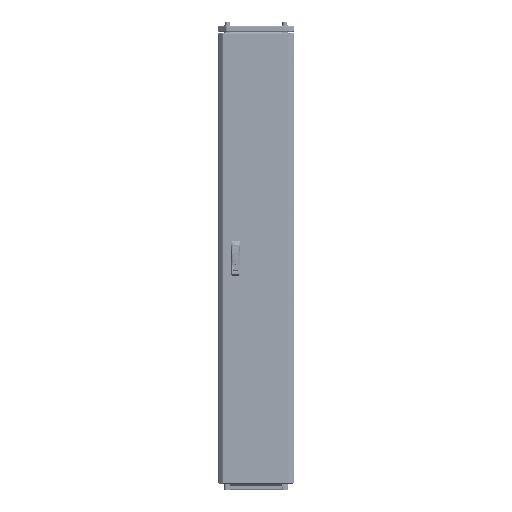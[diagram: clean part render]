
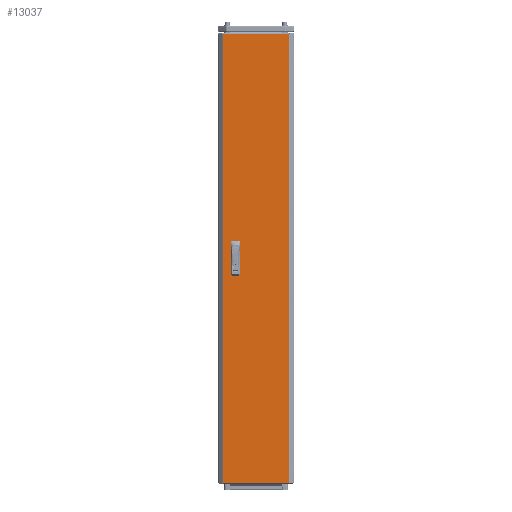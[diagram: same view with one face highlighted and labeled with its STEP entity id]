
A CAD part, top view. The second image highlights one B-rep face of the part: STEP entity #13037.
In plain terms, the highlighted planar face has unit normal (0, 0, 1).
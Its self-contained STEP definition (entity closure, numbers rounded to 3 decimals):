
#338 = DIRECTION ( 'NONE',  ( 0., 1., 0. ) ) ;
#1574 = VERTEX_POINT ( 'NONE', #8039 ) ;
#3034 = VECTOR ( 'NONE', #53557, 1000. ) ;
#5518 = VERTEX_POINT ( 'NONE', #165200 ) ;
#8039 = CARTESIAN_POINT ( 'NONE',  ( -127.875, 869.5, 0. ) ) ;
#8869 = VECTOR ( 'NONE', #94274, 1000. ) ;
#11410 = LINE ( 'NONE', #188555, #186872 ) ;
#13037 = ADVANCED_FACE ( 'NONE', ( #49212, #226352, #138337 ), #63528, .F. ) ;
#16296 = EDGE_CURVE ( 'NONE', #1574, #95326, #58575, .T. ) ;
#17457 = VECTOR ( 'NONE', #148858, 1000. ) ;
#22775 = CARTESIAN_POINT ( 'NONE',  ( -67.5, -12.5, 0. ) ) ;
#23583 = EDGE_CURVE ( 'NONE', #56777, #190602, #161671, .T. ) ;
#23991 = LINE ( 'NONE', #116670, #193727 ) ;
#25331 = CARTESIAN_POINT ( 'NONE',  ( -127.875, -869.5, 0. ) ) ;
#27970 = CARTESIAN_POINT ( 'NONE',  ( -92.5, -12.5, 0. ) ) ;
#28191 = VERTEX_POINT ( 'NONE', #58473 ) ;
#29260 = DIRECTION ( 'NONE',  ( 1., 0., 0. ) ) ;
#31167 = ORIENTED_EDGE ( 'NONE', *, *, #110467, .F. ) ;
#36848 = ORIENTED_EDGE ( 'NONE', *, *, #16296, .T. ) ;
#41876 = VERTEX_POINT ( 'NONE', #214375 ) ;
#43735 = CARTESIAN_POINT ( 'NONE',  ( -92.5, -12.5, 0. ) ) ;
#46787 = CARTESIAN_POINT ( 'NONE',  ( -92.5, 12.5, 0. ) ) ;
#48062 = DIRECTION ( 'NONE',  ( -1., 0., 0. ) ) ;
#48769 = CARTESIAN_POINT ( 'NONE',  ( -67.5, -62.5, 0. ) ) ;
#48786 = CARTESIAN_POINT ( 'NONE',  ( -127.875, -869.5, 0. ) ) ;
#49212 = FACE_BOUND ( 'NONE', #51980, .T. ) ;
#50171 = CARTESIAN_POINT ( 'NONE',  ( -127.875, -869.5, 0. ) ) ;
#51980 = EDGE_LOOP ( 'NONE', ( #215587, #200135, #151947, #31167 ) ) ;
#53557 = DIRECTION ( 'NONE',  ( 0., -1., 0. ) ) ;
#56777 = VERTEX_POINT ( 'NONE', #43735 ) ;
#57896 = DIRECTION ( 'NONE',  ( 0., 1., 0. ) ) ;
#58473 = CARTESIAN_POINT ( 'NONE',  ( -67.5, 62.5, 0. ) ) ;
#58575 = LINE ( 'NONE', #25331, #17457 ) ;
#61727 = ORIENTED_EDGE ( 'NONE', *, *, #232165, .F. ) ;
#63528 = PLANE ( 'NONE',  #203679 ) ;
#63651 = ORIENTED_EDGE ( 'NONE', *, *, #143385, .T. ) ;
#65066 = VERTEX_POINT ( 'NONE', #22775 ) ;
#68568 = VECTOR ( 'NONE', #156902, 1000. ) ;
#68598 = VERTEX_POINT ( 'NONE', #48769 ) ;
#69955 = VECTOR ( 'NONE', #125895, 1000. ) ;
#75253 = CARTESIAN_POINT ( 'NONE',  ( -67.5, -62.5, 0. ) ) ;
#78048 = CARTESIAN_POINT ( 'NONE',  ( 127.875, -869.5, 0. ) ) ;
#84851 = CARTESIAN_POINT ( 'NONE',  ( 0., 0., 0. ) ) ;
#90251 = LINE ( 'NONE', #218553, #69955 ) ;
#91032 = VECTOR ( 'NONE', #57896, 1000. ) ;
#94274 = DIRECTION ( 'NONE',  ( 0., 1., 0. ) ) ;
#95326 = VERTEX_POINT ( 'NONE', #50171 ) ;
#99457 = LINE ( 'NONE', #78048, #91032 ) ;
#99971 = ORIENTED_EDGE ( 'NONE', *, *, #159278, .F. ) ;
#100111 = CARTESIAN_POINT ( 'NONE',  ( 127.875, -869.5, 0. ) ) ;
#103527 = ORIENTED_EDGE ( 'NONE', *, *, #23583, .F. ) ;
#104995 = EDGE_LOOP ( 'NONE', ( #212291, #61727, #99971, #103527 ) ) ;
#105917 = ORIENTED_EDGE ( 'NONE', *, *, #180719, .T. ) ;
#106714 = ORIENTED_EDGE ( 'NONE', *, *, #137059, .T. ) ;
#109059 = DIRECTION ( 'NONE',  ( 1., 0., 0. ) ) ;
#110001 = CARTESIAN_POINT ( 'NONE',  ( -127.875, 869.5, 0. ) ) ;
#110467 = EDGE_CURVE ( 'NONE', #5518, #178509, #210695, .T. ) ;
#116670 = CARTESIAN_POINT ( 'NONE',  ( -92.5, 12.5, 0. ) ) ;
#117826 = VERTEX_POINT ( 'NONE', #100111 ) ;
#125895 = DIRECTION ( 'NONE',  ( -1., 0., 0. ) ) ;
#127855 = VECTOR ( 'NONE', #338, 1000. ) ;
#137059 = EDGE_CURVE ( 'NONE', #41876, #1574, #201478, .T. ) ;
#138337 = FACE_OUTER_BOUND ( 'NONE', #189586, .T. ) ;
#143385 = EDGE_CURVE ( 'NONE', #95326, #117826, #217160, .T. ) ;
#148858 = DIRECTION ( 'NONE',  ( 0., -1., 0. ) ) ;
#151947 = ORIENTED_EDGE ( 'NONE', *, *, #197570, .F. ) ;
#156902 = DIRECTION ( 'NONE',  ( 1., 0., 0. ) ) ;
#159278 = EDGE_CURVE ( 'NONE', #190602, #68598, #11410, .T. ) ;
#159545 = LINE ( 'NONE', #180983, #127855 ) ;
#161671 = LINE ( 'NONE', #216341, #3034 ) ;
#163105 = CARTESIAN_POINT ( 'NONE',  ( -92.5, -62.5, 0. ) ) ;
#165200 = CARTESIAN_POINT ( 'NONE',  ( -92.5, 62.5, 0. ) ) ;
#170585 = LINE ( 'NONE', #27970, #188591 ) ;
#177753 = VERTEX_POINT ( 'NONE', #232041 ) ;
#178509 = VERTEX_POINT ( 'NONE', #46787 ) ;
#180719 = EDGE_CURVE ( 'NONE', #117826, #41876, #99457, .T. ) ;
#180983 = CARTESIAN_POINT ( 'NONE',  ( -67.5, 12.5, 0. ) ) ;
#185758 = LINE ( 'NONE', #75253, #8869 ) ;
#186872 = VECTOR ( 'NONE', #29260, 1000. ) ;
#188555 = CARTESIAN_POINT ( 'NONE',  ( -92.5, -62.5, 0. ) ) ;
#188591 = VECTOR ( 'NONE', #228749, 1000. ) ;
#189586 = EDGE_LOOP ( 'NONE', ( #105917, #106714, #36848, #63651 ) ) ;
#190602 = VERTEX_POINT ( 'NONE', #163105 ) ;
#193727 = VECTOR ( 'NONE', #109059, 1000. ) ;
#197570 = EDGE_CURVE ( 'NONE', #178509, #177753, #23991, .T. ) ;
#200135 = ORIENTED_EDGE ( 'NONE', *, *, #218834, .F. ) ;
#201478 = LINE ( 'NONE', #110001, #201709 ) ;
#201709 = VECTOR ( 'NONE', #215779, 1000. ) ;
#203679 = AXIS2_PLACEMENT_3D ( 'NONE', #84851, #227514, #48062 ) ;
#210695 = LINE ( 'NONE', #228572, #227762 ) ;
#212291 = ORIENTED_EDGE ( 'NONE', *, *, #218720, .F. ) ;
#214375 = CARTESIAN_POINT ( 'NONE',  ( 127.875, 869.5, 0. ) ) ;
#215587 = ORIENTED_EDGE ( 'NONE', *, *, #215870, .F. ) ;
#215779 = DIRECTION ( 'NONE',  ( -1., 0., 0. ) ) ;
#215870 = EDGE_CURVE ( 'NONE', #28191, #5518, #90251, .T. ) ;
#216341 = CARTESIAN_POINT ( 'NONE',  ( -92.5, -62.5, 0. ) ) ;
#217160 = LINE ( 'NONE', #48786, #68568 ) ;
#218553 = CARTESIAN_POINT ( 'NONE',  ( -92.5, 62.5, 0. ) ) ;
#218720 = EDGE_CURVE ( 'NONE', #65066, #56777, #170585, .T. ) ;
#218834 = EDGE_CURVE ( 'NONE', #177753, #28191, #159545, .T. ) ;
#226352 = FACE_BOUND ( 'NONE', #104995, .T. ) ;
#227387 = DIRECTION ( 'NONE',  ( 0., -1., 0. ) ) ;
#227514 = DIRECTION ( 'NONE',  ( 0., 0., -1. ) ) ;
#227762 = VECTOR ( 'NONE', #227387, 1000. ) ;
#228572 = CARTESIAN_POINT ( 'NONE',  ( -92.5, 12.5, 0. ) ) ;
#228749 = DIRECTION ( 'NONE',  ( -1., 0., 0. ) ) ;
#232041 = CARTESIAN_POINT ( 'NONE',  ( -67.5, 12.5, 0. ) ) ;
#232165 = EDGE_CURVE ( 'NONE', #68598, #65066, #185758, .T. ) ;
